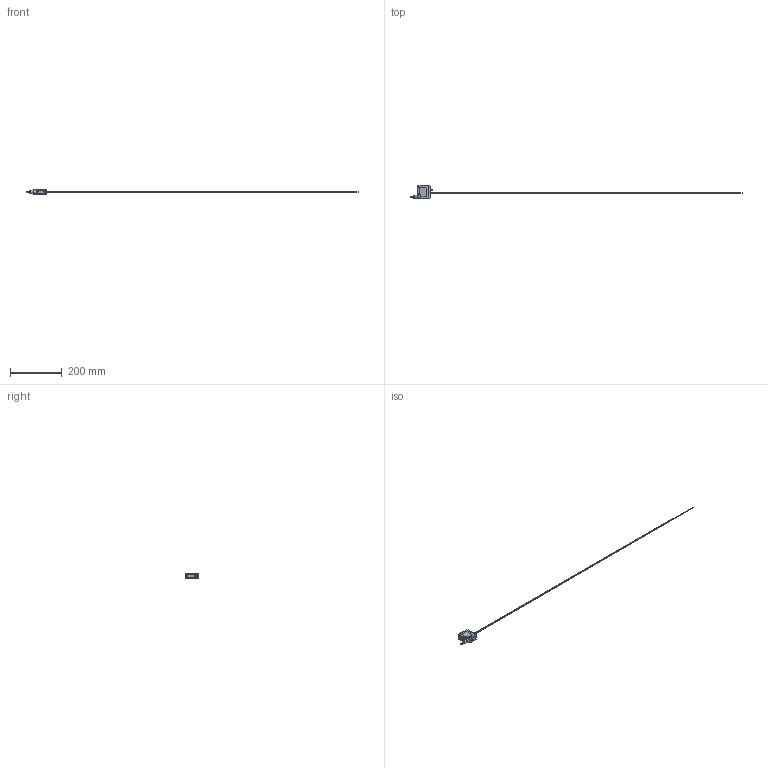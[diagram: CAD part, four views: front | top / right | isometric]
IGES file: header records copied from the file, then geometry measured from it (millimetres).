
Global section: file name: 622-21009_FT 55-RL-PS-K4; native system: Autodesk Inventor 2022; preprocessor: unknown; author: Sandra.Stahl; date: 20230126.000110; units: millimetre
Bounding box: 1277.85 x 51 x 23 mm (x, y, z)
Volume: 60977 mm3; surface area: 23191.2 mm2
Topology: 5 solids, 5 shells, 171 faces, 417 edges, 268 vertices
Faces by surface type: bspline 171
